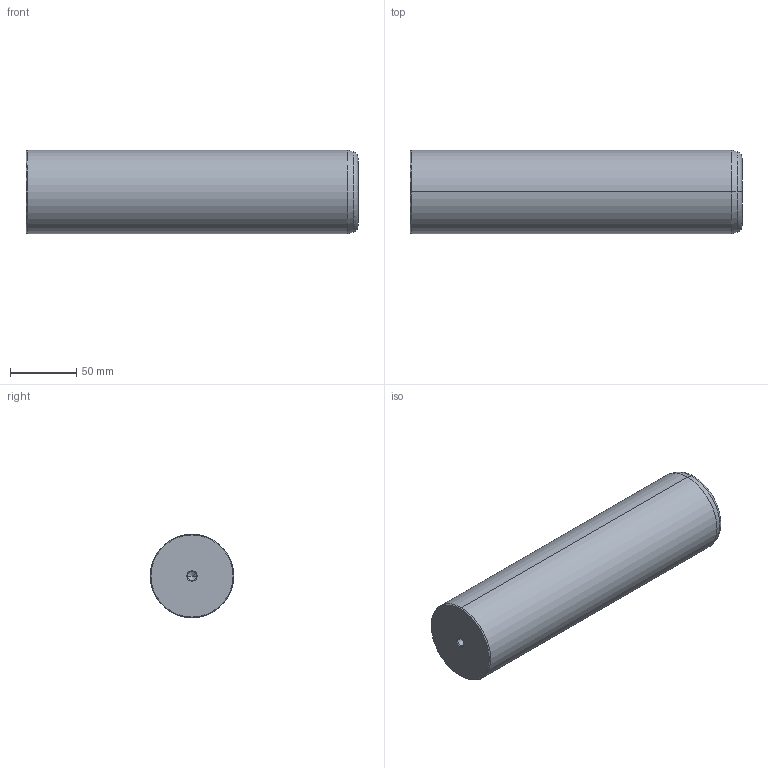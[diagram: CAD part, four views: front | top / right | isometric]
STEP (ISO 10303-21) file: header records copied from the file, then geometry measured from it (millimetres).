
FILE_DESCRIPTION(('CATIA V5 STEP Exchange'),'2;1');
FILE_NAME('C:\Users\Utente\Desktop\IO LAVORO\3D X SITO CF\X SITO\720\720-63x250.stp','2020-12-30T21:29:53+00:00',('none'),('none'),'CATIA Version 5 Release 20 GA (IN-10)','CATIA V5 STEP AP203','none');
FILE_SCHEMA(('CONFIG_CONTROL_DESIGN'));
Length unit declared in the file: millimetre
Products named in the file (1): 720-63x250
Bounding box: 250 x 63 x 63 mm (x, y, z)
Volume: 775366.3 mm3; surface area: 56002.7 mm2
Topology: 1 solids, 1 shells, 22 faces, 56 edges, 34 vertices
Faces by surface type: cone 12, cylinder 6, plane 2, torus 2
Entity records: 755 total; most frequent: CARTESIAN_POINT 216, ORIENTED_EDGE 104, DIRECTION 89, EDGE_CURVE 52, AXIS2_PLACEMENT_3D 50, VERTEX_POINT 34, CIRCLE 27, EDGE_LOOP 24
